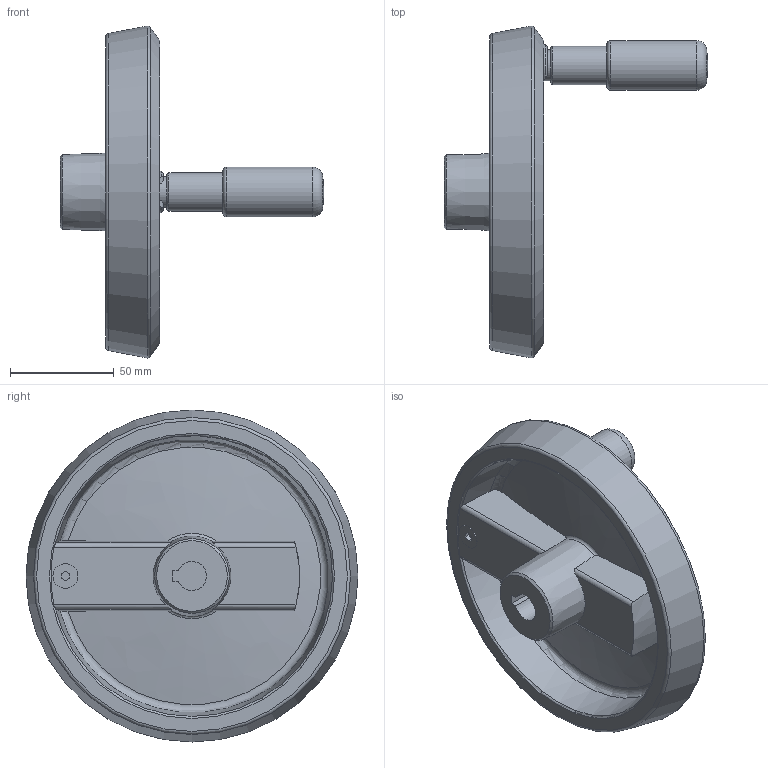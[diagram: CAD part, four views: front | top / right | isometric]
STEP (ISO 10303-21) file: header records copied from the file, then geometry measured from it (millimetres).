
FILE_DESCRIPTION( ( 'STEP AP203' ), '1' );
FILE_NAME( 'C:/Temp/Ganter_Step_05_03_2020/data/1_3/gn_923_7/gn_923_7_b/Handwheel with retractable handle GN 923.7-160-B14-R-SR (activated).stp', '2020-03-05T10:40:07', ( 'License CC BY-ND 4.0' ), ( 'CADENAS' ), ' ', 'PARTsolutions', ' ' );
FILE_SCHEMA( ( 'CONFIG_CONTROL_DESIGN' ) );
Length unit declared in the file: millimetre
Products named in the file (3): Handwheel with retractable handle GN 923.7-160-B14-R-SR (activated); _Umleggriff-Handrad GN 923.7-160-B14-R-SR-1; _Umleggriff-Handrad GN 923.7-160-B14-R-SR (90)-2
Assembly tree (2 placements, depth 2):
  Handwheel with retractable handle GN 923.7-160-B14-R-SR (activated)
    _Umleggriff-Handrad GN 923.7-160-B14-R-SR-1
    _Umleggriff-Handrad GN 923.7-160-B14-R-SR (90)-2
Bounding box: 127.2 x 160 x 160 mm (x, y, z)
Volume: 265938.1 mm3; surface area: 78685.2 mm2
Topology: 2 solids, 2 shells, 111 faces, 268 edges, 169 vertices
Faces by surface type: plane 48, cylinder 29, torus 14, cone 12, bspline 6, sphere 2
Full cylindrical faces by diameter (mm): 4 x2, 5 x1, 8 x1, 12 x1, 15 x1, 18.5 x1, 20 x1, 23 x2, 24 x1
Entity records: 3625 total; most frequent: CARTESIAN_POINT 1100, DIRECTION 505, ORIENTED_EDGE 470, EDGE_CURVE 235, AXIS2_PLACEMENT_3D 212, VERTEX_POINT 163, EDGE_LOOP 147, FACE_OUTER_BOUND 129
